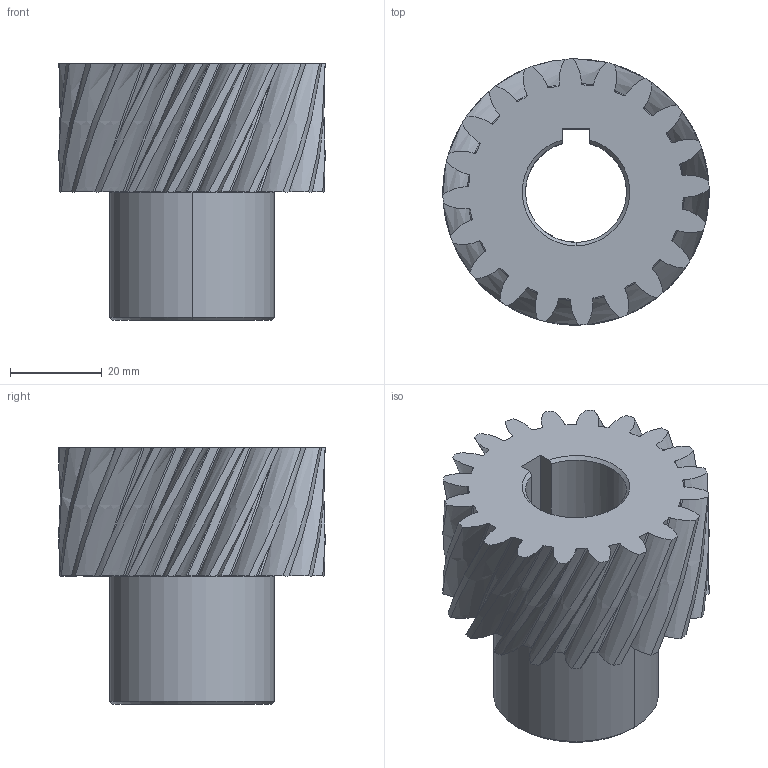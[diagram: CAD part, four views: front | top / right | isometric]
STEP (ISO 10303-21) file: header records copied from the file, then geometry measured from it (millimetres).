
FILE_DESCRIPTION (( 'STEP AP214' ), '1' );
FILE_NAME ('M2.5-20-22-R.step', '2022-07-03T03:27:47', ( 'IT Division' ), ( 'IT' ), 'SwSTEP 2.0', 'SolidWorks 2016', '' );
FILE_SCHEMA (( 'AUTOMOTIVE_DESIGN' ));
Length unit declared in the file: millimetre
Products named in the file (1): M2.5-20-22-R
Bounding box: 58.04 x 58.04 x 56 mm (x, y, z)
Volume: 66932.1 mm3; surface area: 20600 mm2
Topology: 1 solids, 1 shells, 1119 faces, 3097 edges, 2064 vertices
Faces by surface type: bspline 735, plane 271, cylinder 108, cone 5
Entity records: 101809 total; most frequent: CARTESIAN_POINT 80262, ORIENTED_EDGE 6194, EDGE_CURVE 3097, VERTEX_POINT 2064, B_SPLINE_CURVE_WITH_KNOTS 2064, DIRECTION 1735, EDGE_LOOP 1205, ADVANCED_FACE 1119
